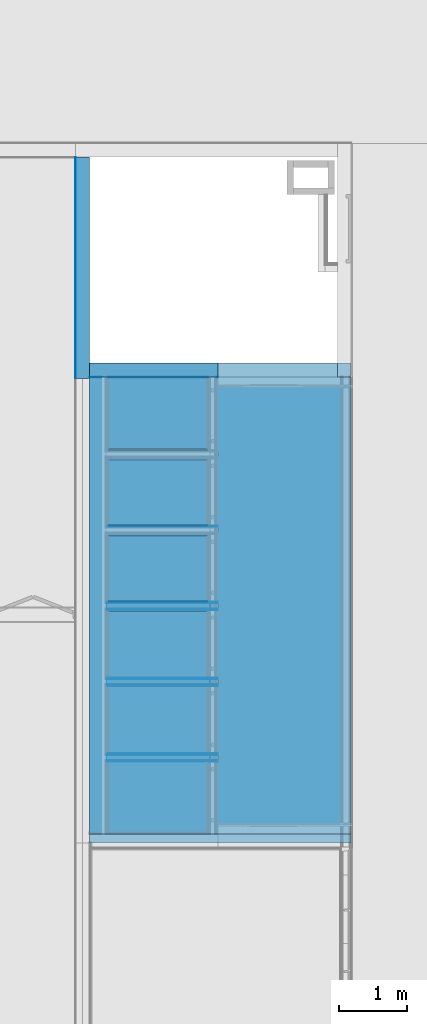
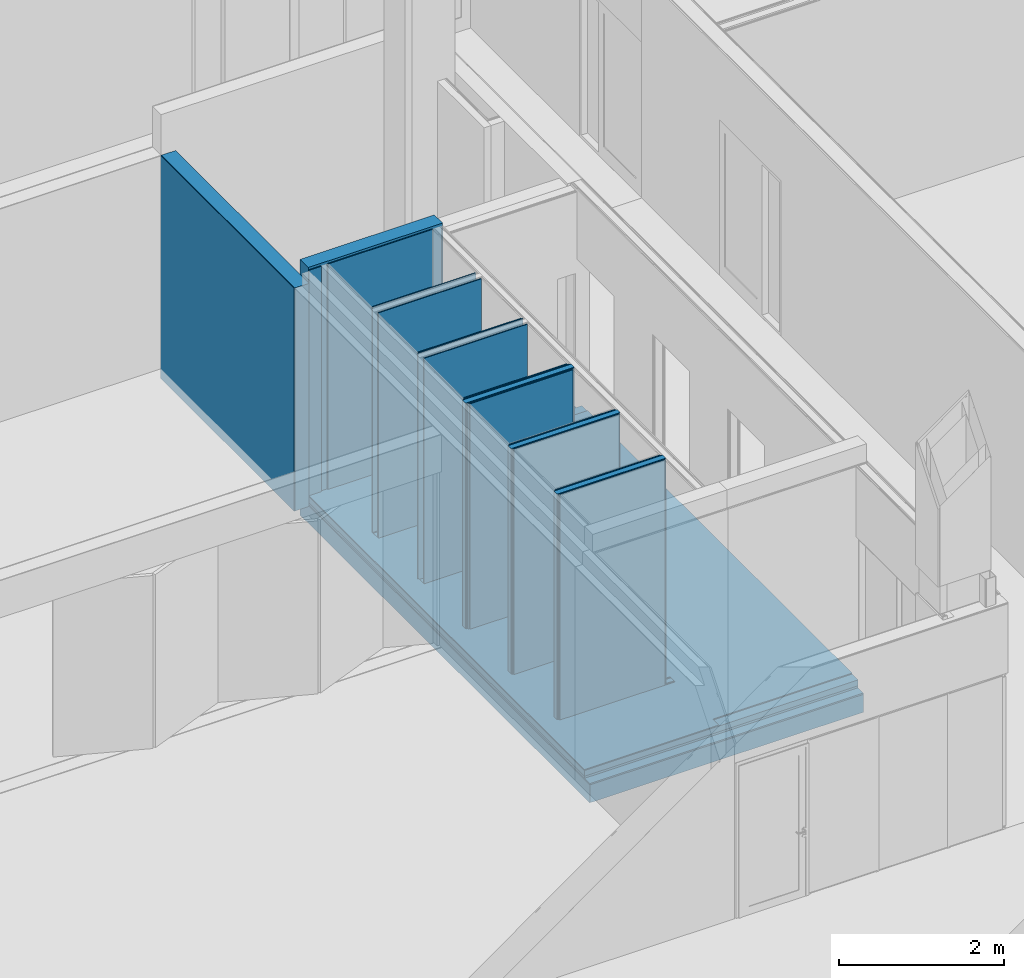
# One storey, part 114 of 139: 31 building element parts, 8 elements without a shape of their own.
"""IFC2X3 building model written with IfcOpenShell, lengths in millimetres."""

from ifc_helpers import new_model, entity, si_unit, converted_unit, derived_unit, money_unit, direction, frame, origin_with_axes, place, context, subcontext, project, spatial, faceted_brep, material, type_object, element, aggregate, save


model = new_model("IFC2X3")

# Units and contexts
model_context = context("Model", 3, precision=0.01, world=origin_with_axes(), true_north=direction((0.0, 1.0)))
body_context = subcontext(model_context, "Body", "Model", "MODEL_VIEW")
ifc_project = project(units=[si_unit("LENGTHUNIT", "METRE", prefix="MILLI"), si_unit("AREAUNIT", "SQUARE_METRE"), si_unit("VOLUMEUNIT", "CUBIC_METRE"), converted_unit("PLANEANGLEUNIT", "DEGREE", entity("IfcPlaneAngleMeasure", 0.0174532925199), si_unit("PLANEANGLEUNIT", "RADIAN"), dimensions=[0, 0, 0, 0, 0, 0, 0]), money_unit("EUR"), converted_unit("TIMEUNIT", "Year", entity("IfcTimeMeasure", 31556926.0), si_unit("TIMEUNIT", "SECOND"), dimensions=[0, 0, 1, 0, 0, 0, 0]), si_unit("MASSUNIT", "GRAM", prefix="KILO"), si_unit("THERMODYNAMICTEMPERATUREUNIT", "DEGREE_CELSIUS"), si_unit("LUMINOUSINTENSITYUNIT", "LUMEN"), si_unit("ENERGYUNIT", "JOULE", prefix="MEGA"), derived_unit("THERMALCONDUCTANCEUNIT", [(si_unit("POWERUNIT", "WATT"), 1), (si_unit("LENGTHUNIT", "METRE"), -1), (si_unit("THERMODYNAMICTEMPERATUREUNIT", "KELVIN"), -1)]), derived_unit("SPECIFICHEATCAPACITYUNIT", [(si_unit("ENERGYUNIT", "JOULE"), 1), (si_unit("MASSUNIT", "GRAM", prefix="KILO"), -1), (si_unit("THERMODYNAMICTEMPERATUREUNIT", "KELVIN"), -1)]), derived_unit("MASSDENSITYUNIT", [(si_unit("MASSUNIT", "GRAM", prefix="KILO"), 1), (si_unit("VOLUMEUNIT", "CUBIC_METRE"), -1)])], contexts=[model_context])

# Site, building, storey
site_placement = place(None, origin_with_axes())
site = spatial("IfcSite", under=ifc_project, at=site_placement, Name="Kolde pst 67a", CompositionType="ELEMENT")
building_placement = place(site_placement, origin_with_axes())
building = spatial("IfcBuilding", under=site, at=building_placement, Name="Riigigümnaasium", CompositionType="ELEMENT")
storey_placement = place(building_placement, frame((0.0, 0.0, 4600.0), z_axis=(0.0, 0.0, 1.0), x_axis=(1.0, 0.0, 0.0)))
storey = spatial("IfcBuildingStorey", under=building, at=storey_placement, Name="2. korrus", CompositionType="ELEMENT", Elevation=4600.0)

# Wall, building element parts
wall_type_1 = type_object("IfcWallType", Name="SS-KP-20/2_plokksein 1xplaaditud (1) 215", PredefinedType="NOTDEFINED")
wall_1_placement = place(storey_placement, frame((69949.9993636, 21023.7852933, -150.0), z_axis=(0.0, 0.0, 1.0), x_axis=(1.0, 7.74960239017e-09, 0.0)))
wall_1 = element("IfcWall", 1, at=wall_1_placement, inside=storey, type_object=wall_type_1, Name="Sisesein")
ifc_material_1 = material(Name="_KANDETARIND - kergplokk Fibo3 200mm")
building_element_part_1_placement = place(wall_1_placement, origin_with_axes())
building_element_part_1 = element("IfcBuildingElementPart", 2, at=building_element_part_1_placement, material=ifc_material_1, Name="_KANDETARIND - kergplokk Fibo3 200mm", context=body_context, shape_type="Brep", body=[
    faceted_brep([(1879.99999723, -1.55323220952e-05, 20.0), (1879.99999878, 200.000013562, 20.0), (1879.99999878, 199.999985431, 3450.0), (1879.99997386, 199.999985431, 3518.3651723), (1879.99999711, -1.45692524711e-05, 3518.3651723), (-7.37204430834e-05, 200.000028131, 20.0), (-7.52703641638e-05, 0.0, 20.0), (1.54992108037e-06, 200.0, 3518.36517124), (0.0, 0.0, 3518.36517124)], [[[0, 1, 2, 3, 4]], [[5, 1, 0, 6]], [[1, 5, 7, 3, 2]], [[7, 8, 4, 3]], [[6, 0, 4, 8]], [[5, 6, 8, 7]]]),
])
ifc_material_2 = material(Name="_VIIMISTLUSKIHT - viimistlus vastavalt SA osale")
building_element_part_2_placement = place(wall_1_placement, origin_with_axes())
building_element_part_2 = element("IfcBuildingElementPart", 3, at=building_element_part_2_placement, material=ifc_material_2, Name="_VIIMISTLUSKIHT - viimistlus vastavalt SA osale", context=body_context, shape_type="Brep", body=[
    faceted_brep([(-7.45586703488e-07, 0.0, 3485.0), (173.999434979, -1.35802480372e-06, 3485.0), (173.999434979, -2.31700525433e-06, 150.0), (-7.52703641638e-05, 0.0, 150.0), (173.999434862, -15.0000013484, 3485.0), (-8.61831495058e-07, -15.0, 3485.0), (173.999434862, -15.0000013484, 150.0), (-7.53866089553e-05, -15.0, 150.0)], [[[0, 1, 2, 3]], [[4, 1, 0, 5]], [[1, 4, 6, 2]], [[3, 2, 6, 7]], [[5, 0, 3, 7]], [[4, 5, 7, 6]]]),
    faceted_brep([(264.999433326, -2.06323846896e-06, 3485.0), (1739.99999828, -1.34866517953e-05, 3485.0), (1739.99999711, -1.37208360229e-05, 150.0), (264.999434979, -3.02221891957e-06, 150.0), (1740.00000002, -15.0000134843, 3485.0), (264.999433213, -15.0000020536, 3485.0), (1739.99999885, -15.0000134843, 150.0), (264.999434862, -15.0000020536, 150.0)], [[[0, 1, 2, 3]], [[4, 1, 0, 5]], [[1, 4, 6, 2]], [[3, 2, 6, 7]], [[5, 0, 3, 7]], [[4, 5, 7, 6]]]),
    faceted_brep([(1879.99999724, -15.0000145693, 150.0), (1879.99999727, -1.54965356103e-05, 150.0), (1879.99999825, -1.45880711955e-05, 3450.0), (1879.99999999, -15.0000145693, 3450.0), (1864.99999711, -1.46895366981e-05, 150.0), (1864.99999885, -15.000014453, 150.0), (1864.99999709, -1.46895366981e-05, 3450.0), (1864.99999884, -15.000014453, 3450.0)], [[[0, 1, 2, 3]], [[4, 1, 0, 5]], [[1, 4, 6, 2]], [[2, 6, 7, 3]], [[5, 0, 3, 7]], [[4, 5, 7, 6]]]),
])
aggregate(wall_1, [building_element_part_1, building_element_part_2])

wall_type_2 = type_object("IfcWallType", Name="SS-MK-7,5/1_plaaditud 155", PredefinedType="NOTDEFINED")
wall_2_placement = place(storey_placement, frame((70229.9988411, 15524.9999708, -15.0), z_axis=(0.0, 0.0, 1.0), x_axis=(1.0, 0.0, 0.0)))
wall_2 = element("IfcWall", 4, at=wall_2_placement, inside=storey, type_object=wall_type_2, Name="Sisesein")
ifc_material_3 = material(Name="_PLAATMATERJAL - kipsplaat veekindel")
building_element_part_3_placement = place(wall_2_placement, origin_with_axes())
building_element_part_3 = element("IfcBuildingElementPart", 5, at=building_element_part_3_placement, material=ifc_material_3, Name="_PLAATMATERJAL - kipsplaat veekindel", context=body_context, shape_type="Brep", body=[
    faceted_brep([(-15.0000428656, -15.0, 3350.0), (1460.00120351, -15.0, 3350.0), (1460.00120329, -15.0, 15.0), (1600.00120329, -15.0, 15.0), (1600.00117477, -15.0, 0.0), (0.0, -15.0, 0.0), (0.0, -15.0, 15.0), (-15.0000425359, -15.0, 15.0), (1460.00120506, -27.5, 3350.0), (-15.0000428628, -27.5, 3350.0), (1460.00120484, -27.5, 15.0), (1600.00120484, -27.5, 15.0), (1600.00117477, -27.5, 0.0), (0.0, -27.5, 0.0), (0.0, -27.5, 15.0), (-15.0000425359, -27.5, 15.0)], [[[0, 1, 2, 3, 4, 5, 6, 7]], [[8, 1, 0, 9]], [[1, 8, 10, 2]], [[3, 2, 10, 11]], [[4, 3, 11, 12]], [[13, 5, 4, 12]], [[13, 14, 6, 5]], [[14, 15, 7, 6]], [[9, 0, 7, 15]], [[8, 9, 15, 14, 13, 12, 11, 10]]]),
])
building_element_part_4_placement = place(wall_2_placement, origin_with_axes())
building_element_part_4 = element("IfcBuildingElementPart", 6, at=building_element_part_4_placement, material=ifc_material_3, Name="_PLAATMATERJAL - kipsplaat veekindel", context=body_context, shape_type="Brep", body=[
    faceted_brep([(-27.5000425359, -27.5, 3350.0), (1472.50120484, -27.5, 3350.0), (1472.50120484, -27.5, 15.0), (1600.00120484, -27.5, 15.0), (1600.00117477, -27.5, 0.0), (0.0, -27.5, 0.0), (0.0, -27.5, 15.0), (-27.5000425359, -27.5, 15.0), (1472.50120639, -40.0, 3350.0), (-27.5000425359, -40.0, 3350.0), (1472.50120639, -40.0, 15.0), (1600.00120639, -40.0, 15.0), (1600.00117477, -40.0, 0.0), (0.0, -40.0, 0.0), (0.0, -40.0, 15.0), (-27.5000425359, -40.0, 15.0)], [[[0, 1, 2, 3, 4, 5, 6, 7]], [[8, 1, 0, 9]], [[1, 8, 10, 2]], [[3, 2, 10, 11]], [[4, 3, 11, 12]], [[13, 5, 4, 12]], [[13, 14, 6, 5]], [[14, 15, 7, 6]], [[9, 0, 7, 15]], [[8, 9, 15, 14, 13, 12, 11, 10]]]),
])
ifc_material_4 = material(Name="_KARKASS - metallkarkass CW 75/50, mineraalvill karkassi vahel")
building_element_part_5_placement = place(wall_2_placement, origin_with_axes())
building_element_part_5 = element("IfcBuildingElementPart", 7, at=building_element_part_5_placement, material=ifc_material_4, Name="_KARKASS - metallkarkass CW 75/50, mineraalvill karkassi vahel", context=body_context, shape_type="Brep", body=[
    faceted_brep([(-40.0000421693, -40.0, 3350.0), (1485.00120596, -40.0, 3350.0), (1485.00120639, -40.0, 15.0), (1600.00120639, -40.0, 15.0), (1600.00117477, -40.0, 0.0), (0.0, -40.0, 0.0), (0.0, -40.0, 15.0), (-40.0000425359, -40.0, 15.0), (1485.00121528, -115.0, 3350.0), (-40.0000421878, -115.0, 3350.0), (1485.00121569, -115.0, 15.0), (1600.00121569, -115.0, 15.0), (1600.00117477, -115.0, 0.0), (0.0, -115.0, 0.0), (0.0, -115.0, 15.0), (-40.0000425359, -115.0, 15.0)], [[[0, 1, 2, 3, 4, 5, 6, 7]], [[8, 1, 0, 9]], [[1, 8, 10, 2]], [[3, 2, 10, 11]], [[4, 3, 11, 12]], [[13, 5, 4, 12]], [[13, 14, 6, 5]], [[14, 15, 7, 6]], [[9, 0, 7, 15]], [[8, 9, 15, 14, 13, 12, 11, 10]]]),
])
building_element_part_6_placement = place(wall_2_placement, origin_with_axes())
building_element_part_6 = element("IfcBuildingElementPart", 8, at=building_element_part_6_placement, material=ifc_material_3, Name="_PLAATMATERJAL - kipsplaat veekindel", context=body_context, shape_type="Brep", body=[
    faceted_brep([(-27.5000425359, -115.0, 3350.0), (1472.50121569, -115.0, 3350.0), (1472.50121569, -115.0, 15.0), (1600.00121569, -115.0, 15.0), (1600.00117477, -115.0, 0.0), (0.0, -115.0, 0.0), (0.0, -115.0, 15.0), (-27.5000425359, -115.0, 15.0), (1472.50121724, -127.5, 3350.0), (-27.5000425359, -127.5, 3350.0), (1472.50121724, -127.5, 15.0), (1600.00121724, -127.5, 15.0), (1600.00117477, -127.5, 0.0), (0.0, -127.5, 0.0), (0.0, -127.5, 15.0), (-27.5000425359, -127.5, 15.0)], [[[0, 1, 2, 3, 4, 5, 6, 7]], [[8, 1, 0, 9]], [[1, 8, 10, 2]], [[3, 2, 10, 11]], [[4, 3, 11, 12]], [[13, 5, 4, 12]], [[13, 14, 6, 5]], [[14, 15, 7, 6]], [[9, 0, 7, 15]], [[8, 9, 15, 14, 13, 12, 11, 10]]]),
])
building_element_part_7_placement = place(wall_2_placement, origin_with_axes())
building_element_part_7 = element("IfcBuildingElementPart", 9, at=building_element_part_7_placement, material=ifc_material_3, Name="_PLAATMATERJAL - kipsplaat veekindel", context=body_context, shape_type="Brep", body=[
    faceted_brep([(-15.000042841, -127.5, 3350.0), (1460.00121745, -127.5, 3350.0), (1460.00121724, -127.5, 15.0), (1600.00121724, -127.5, 15.0), (1600.00117477, -127.5, 0.0), (0.0, -127.5, 0.0), (0.0, -127.5, 15.0), (-15.0000425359, -127.5, 15.0), (1460.00121899, -140.0, 3350.0), (-15.0000428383, -140.0, 3350.0), (1460.00121879, -140.0, 15.0), (1600.00121879, -140.0, 15.0), (1600.00117477, -140.0, 0.0), (0.0, -140.0, 0.0), (0.0, -140.0, 15.0), (-15.0000425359, -140.0, 15.0)], [[[0, 1, 2, 3, 4, 5, 6, 7]], [[8, 1, 0, 9]], [[1, 8, 10, 2]], [[3, 2, 10, 11]], [[4, 3, 11, 12]], [[13, 5, 4, 12]], [[13, 14, 6, 5]], [[14, 15, 7, 6]], [[9, 0, 7, 15]], [[8, 9, 15, 14, 13, 12, 11, 10]]]),
])
aggregate(wall_2, [building_element_part_3, building_element_part_4, building_element_part_5, building_element_part_6, building_element_part_7])

wall_type_3 = type_object("IfcWallType", Name="SS-RB-20/6_+1 krohv 210", PredefinedType="NOTDEFINED")
wall_3_placement = place(storey_placement, frame((69949.9992883, 20999.9999534, -150.0), z_axis=(0.0, 0.0, 1.0), x_axis=(0.0, 1.0, 0.0)))
wall_3 = element("IfcWall", 10, at=wall_3_placement, inside=storey, type_object=wall_type_3, Name="Sisesein")
building_element_part_8_placement = place(wall_3_placement, origin_with_axes())
building_element_part_8 = element("IfcBuildingElementPart", 11, at=building_element_part_8_placement, material=ifc_material_2, Name="_VIIMISTLUSKIHT - viimistlus vastavalt SA osale", context=body_context, shape_type="Brep", body=[
    faceted_brep([(0.0, 200.0, 3300.0), (3240.00001925, 200.0, 3300.0), (3240.00001925, 210.0, 3300.0), (0.0, 210.0, 3300.0), (0.0, 200.0, 0.0), (3240.00001925, 200.0, 0.0), (3240.00001925, 210.0, 0.0), (0.0, 210.0, 0.0)], [[[0, 1, 2, 3]], [[4, 5, 1, 0]], [[2, 1, 5, 6]], [[3, 2, 6, 7]], [[4, 0, 3, 7]], [[7, 6, 5, 4]]]),
])
ifc_material_5 = material(Name="_KANDETARIND - monteeritav raudbetoon vastavalt EK osale")
building_element_part_9_placement = place(wall_3_placement, origin_with_axes())
building_element_part_9 = element("IfcBuildingElementPart", 12, at=building_element_part_9_placement, material=ifc_material_5, Name="_KANDETARIND - monteeritav raudbetoon vastavalt EK osale", context=body_context, shape_type="Brep", body=[
    faceted_brep([(0.0, 0.0, 3300.0), (3240.00001925, 0.0, 3300.0), (3240.00001925, 200.0, 3300.0), (0.0, 200.0, 3300.0), (0.0, 0.0, 0.0), (3240.00001925, 0.0, 0.0), (3240.00001925, 200.0, 0.0), (0.0, 200.0, 0.0)], [[[0, 1, 2, 3]], [[4, 5, 1, 0]], [[2, 1, 5, 6]], [[3, 2, 6, 7]], [[4, 0, 3, 7]], [[7, 6, 5, 4]]]),
])
aggregate(wall_3, [building_element_part_8, building_element_part_9])

wall_4_placement = place(storey_placement, frame((70229.9987035, 16634.9999708, -15.0), z_axis=(0.0, 0.0, 1.0), x_axis=(1.0, 0.0, 0.0)))
wall_4 = element("IfcWall", 13, at=wall_4_placement, inside=storey, type_object=wall_type_2, Name="Sisesein")
building_element_part_10_placement = place(wall_4_placement, origin_with_axes())
building_element_part_10 = element("IfcBuildingElementPart", 14, at=building_element_part_10_placement, material=ifc_material_3, Name="_PLAATMATERJAL - kipsplaat veekindel", context=body_context, shape_type="Brep", body=[
    faceted_brep([(-14.9999054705, -15.0, 3350.0), (1460.00120369, -15.0, 3350.0), (1460.00120329, -15.0, 15.0), (1600.00120329, -15.0, 15.0), (1600.00117477, -15.0, 0.0), (0.0, -15.0, 0.0), (0.0, -15.0, 15.0), (-14.9999048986, -15.0, 15.0), (1460.00120524, -27.5, 3350.0), (-14.9999054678, -27.5, 3350.0), (1460.00120484, -27.5, 15.0), (1600.00120484, -27.5, 15.0), (1600.00117477, -27.5, 0.0), (0.0, -27.5, 0.0), (0.0, -27.5, 15.0), (-14.9999048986, -27.5, 15.0)], [[[0, 1, 2, 3, 4, 5, 6, 7]], [[8, 1, 0, 9]], [[1, 8, 10, 2]], [[3, 2, 10, 11]], [[4, 3, 11, 12]], [[13, 5, 4, 12]], [[13, 14, 6, 5]], [[14, 15, 7, 6]], [[9, 0, 7, 15]], [[8, 9, 15, 14, 13, 12, 11, 10]]]),
])
building_element_part_11_placement = place(wall_4_placement, origin_with_axes())
building_element_part_11 = element("IfcBuildingElementPart", 15, at=building_element_part_11_placement, material=ifc_material_3, Name="_PLAATMATERJAL - kipsplaat veekindel", context=body_context, shape_type="Brep", body=[
    faceted_brep([(-27.4999048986, -27.5, 3350.0), (1472.50120484, -27.5, 3350.0), (1472.50120484, -27.5, 15.0), (1600.00120484, -27.5, 15.0), (1600.00117477, -27.5, 0.0), (0.0, -27.5, 0.0), (0.0, -27.5, 15.0), (-27.4999048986, -27.5, 15.0), (1472.50120639, -40.0, 3350.0), (-27.4999048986, -40.0, 3350.0), (1472.50120639, -40.0, 15.0), (1600.00120639, -40.0, 15.0), (1600.00117477, -40.0, 0.0), (0.0, -40.0, 0.0), (0.0, -40.0, 15.0), (-27.4999048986, -40.0, 15.0)], [[[0, 1, 2, 3, 4, 5, 6, 7]], [[8, 1, 0, 9]], [[1, 8, 10, 2]], [[3, 2, 10, 11]], [[4, 3, 11, 12]], [[13, 5, 4, 12]], [[13, 14, 6, 5]], [[14, 15, 7, 6]], [[9, 0, 7, 15]], [[8, 9, 15, 14, 13, 12, 11, 10]]]),
])
building_element_part_12_placement = place(wall_4_placement, origin_with_axes())
building_element_part_12 = element("IfcBuildingElementPart", 16, at=building_element_part_12_placement, material=ifc_material_4, Name="_KARKASS - metallkarkass CW 75/50, mineraalvill karkassi vahel", context=body_context, shape_type="Brep", body=[
    faceted_brep([(-39.999904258, -40.0, 3350.0), (1485.00120561, -40.0, 3350.0), (1485.00120639, -40.0, 15.0), (1600.00120639, -40.0, 15.0), (1600.00117477, -40.0, 0.0), (0.0, -40.0, 0.0), (0.0, -40.0, 15.0), (-39.9999048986, -40.0, 15.0), (1485.00121493, -115.0, 3350.0), (-39.9999042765, -115.0, 3350.0), (1485.00121569, -115.0, 15.0), (1600.00121569, -115.0, 15.0), (1600.00117477, -115.0, 0.0), (0.0, -115.0, 0.0), (0.0, -115.0, 15.0), (-39.9999048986, -115.0, 15.0)], [[[0, 1, 2, 3, 4, 5, 6, 7]], [[8, 1, 0, 9]], [[1, 8, 10, 2]], [[3, 2, 10, 11]], [[4, 3, 11, 12]], [[13, 5, 4, 12]], [[13, 14, 6, 5]], [[14, 15, 7, 6]], [[9, 0, 7, 15]], [[8, 9, 15, 14, 13, 12, 11, 10]]]),
])
building_element_part_13_placement = place(wall_4_placement, origin_with_axes())
building_element_part_13 = element("IfcBuildingElementPart", 17, at=building_element_part_13_placement, material=ifc_material_3, Name="_PLAATMATERJAL - kipsplaat veekindel", context=body_context, shape_type="Brep", body=[
    faceted_brep([(-27.4999048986, -115.0, 3350.0), (1472.50121569, -115.0, 3350.0), (1472.50121569, -115.0, 15.0), (1600.00121569, -115.0, 15.0), (1600.00117477, -115.0, 0.0), (0.0, -115.0, 0.0), (0.0, -115.0, 15.0), (-27.4999048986, -115.0, 15.0), (1472.50121724, -127.5, 3350.0), (-27.4999048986, -127.5, 3350.0), (1472.50121724, -127.5, 15.0), (1600.00121724, -127.5, 15.0), (1600.00117477, -127.5, 0.0), (0.0, -127.5, 0.0), (0.0, -127.5, 15.0), (-27.4999048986, -127.5, 15.0)], [[[0, 1, 2, 3, 4, 5, 6, 7]], [[8, 1, 0, 9]], [[1, 8, 10, 2]], [[3, 2, 10, 11]], [[4, 3, 11, 12]], [[13, 5, 4, 12]], [[13, 14, 6, 5]], [[14, 15, 7, 6]], [[9, 0, 7, 15]], [[8, 9, 15, 14, 13, 12, 11, 10]]]),
])
building_element_part_14_placement = place(wall_4_placement, origin_with_axes())
building_element_part_14 = element("IfcBuildingElementPart", 18, at=building_element_part_14_placement, material=ifc_material_3, Name="_PLAATMATERJAL - kipsplaat veekindel", context=body_context, shape_type="Brep", body=[
    faceted_brep([(-14.999905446, -127.5, 3350.0), (1460.00121762, -127.5, 3350.0), (1460.00121724, -127.5, 15.0), (1600.00121724, -127.5, 15.0), (1600.00117477, -127.5, 0.0), (0.0, -127.5, 0.0), (0.0, -127.5, 15.0), (-14.9999048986, -127.5, 15.0), (1460.00121917, -140.0, 3350.0), (-14.9999054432, -140.0, 3350.0), (1460.00121879, -140.0, 15.0), (1600.00121879, -140.0, 15.0), (1600.00117477, -140.0, 0.0), (0.0, -140.0, 0.0), (0.0, -140.0, 15.0), (-14.9999048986, -140.0, 15.0)], [[[0, 1, 2, 3, 4, 5, 6, 7]], [[8, 1, 0, 9]], [[1, 8, 10, 2]], [[3, 2, 10, 11]], [[4, 3, 11, 12]], [[13, 5, 4, 12]], [[13, 14, 6, 5]], [[14, 15, 7, 6]], [[9, 0, 7, 15]], [[8, 9, 15, 14, 13, 12, 11, 10]]]),
])
aggregate(wall_4, [building_element_part_10, building_element_part_11, building_element_part_12, building_element_part_13, building_element_part_14])

wall_5_placement = place(storey_placement, frame((70229.9985658, 17744.9999708, -15.0), z_axis=(0.0, 0.0, 1.0), x_axis=(1.0, 0.0, 0.0)))
wall_5 = element("IfcWall", 19, at=wall_5_placement, inside=storey, type_object=wall_type_2, Name="Sisesein")
building_element_part_15_placement = place(wall_5_placement, origin_with_axes())
building_element_part_15 = element("IfcBuildingElementPart", 20, at=building_element_part_15_placement, material=ifc_material_2, Name="_VIIMISTLUSKIHT - viimistlus vastavalt SA osale", context=body_context, shape_type="Brep", body=[
    faceted_brep([(0.000232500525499, 0.0, 3350.0), (1445.00120143, 0.0, 3350.0), (1445.00120143, 0.0, 15.0), (0.000232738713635, 0.0, 15.0), (1445.00120329, -15.0, 3350.0), (0.000207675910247, -15.0, 3350.0), (1445.00120329, -15.0, 15.0), (9.29887278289e-07, -15.0, 15.0)], [[[0, 1, 2, 3]], [[4, 1, 0, 5]], [[1, 4, 6, 2]], [[3, 2, 6, 7]], [[5, 0, 3, 7]], [[4, 5, 7, 6]]]),
])
building_element_part_16_placement = place(wall_5_placement, origin_with_axes())
building_element_part_16 = element("IfcBuildingElementPart", 21, at=building_element_part_16_placement, material=ifc_material_3, Name="_PLAATMATERJAL - kipsplaat veekindel", context=body_context, shape_type="Brep", body=[
    faceted_brep([(-14.9997680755, -15.0, 3350.0), (1460.00120386, -15.0, 3350.0), (1460.00120329, -15.0, 15.0), (1600.00120329, -15.0, 15.0), (1600.00117477, -15.0, 0.0), (0.0, -15.0, 0.0), (0.0, -15.0, 15.0), (-14.9997672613, -15.0, 15.0), (1460.00120541, -27.5, 3350.0), (-14.9997680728, -27.5, 3350.0), (1460.00120484, -27.5, 15.0), (1600.00120484, -27.5, 15.0), (1600.00117477, -27.5, 0.0), (0.0, -27.5, 0.0), (0.0, -27.5, 15.0), (-14.9997672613, -27.5, 15.0)], [[[0, 1, 2, 3, 4, 5, 6, 7]], [[8, 1, 0, 9]], [[1, 8, 10, 2]], [[3, 2, 10, 11]], [[4, 3, 11, 12]], [[13, 5, 4, 12]], [[13, 14, 6, 5]], [[14, 15, 7, 6]], [[9, 0, 7, 15]], [[8, 9, 15, 14, 13, 12, 11, 10]]]),
])
building_element_part_17_placement = place(wall_5_placement, origin_with_axes())
building_element_part_17 = element("IfcBuildingElementPart", 22, at=building_element_part_17_placement, material=ifc_material_3, Name="_PLAATMATERJAL - kipsplaat veekindel", context=body_context, shape_type="Brep", body=[
    faceted_brep([(-27.4997672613, -27.5, 3350.0), (1472.50120484, -27.5, 3350.0), (1472.50120484, -27.5, 15.0), (1600.00120484, -27.5, 15.0), (1600.00117477, -27.5, 0.0), (0.0, -27.5, 0.0), (0.0, -27.5, 15.0), (-27.4997672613, -27.5, 15.0), (1472.50120639, -40.0, 3350.0), (-27.4997672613, -40.0, 3350.0), (1472.50120639, -40.0, 15.0), (1600.00120639, -40.0, 15.0), (1600.00117477, -40.0, 0.0), (0.0, -40.0, 0.0), (0.0, -40.0, 15.0), (-27.4997672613, -40.0, 15.0)], [[[0, 1, 2, 3, 4, 5, 6, 7]], [[8, 1, 0, 9]], [[1, 8, 10, 2]], [[3, 2, 10, 11]], [[4, 3, 11, 12]], [[13, 5, 4, 12]], [[13, 14, 6, 5]], [[14, 15, 7, 6]], [[9, 0, 7, 15]], [[8, 9, 15, 14, 13, 12, 11, 10]]]),
])
building_element_part_18_placement = place(wall_5_placement, origin_with_axes())
building_element_part_18 = element("IfcBuildingElementPart", 23, at=building_element_part_18_placement, material=ifc_material_4, Name="_KARKASS - metallkarkass CW 75/50, mineraalvill karkassi vahel", context=body_context, shape_type="Brep", body=[
    faceted_brep([(-39.9997663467, -40.0, 3350.0), (1485.00120526, -40.0, 3350.0), (1485.00120639, -40.0, 15.0), (1600.00120639, -40.0, 15.0), (1600.00117477, -40.0, 0.0), (0.0, -40.0, 0.0), (0.0, -40.0, 15.0), (-39.9997672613, -40.0, 15.0), (1485.00121458, -115.0, 3350.0), (-39.9997663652, -115.0, 3350.0), (1485.00121569, -115.0, 15.0), (1600.00121569, -115.0, 15.0), (1600.00117477, -115.0, 0.0), (0.0, -115.0, 0.0), (0.0, -115.0, 15.0), (-39.9997672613, -115.0, 15.0)], [[[0, 1, 2, 3, 4, 5, 6, 7]], [[8, 1, 0, 9]], [[1, 8, 10, 2]], [[3, 2, 10, 11]], [[4, 3, 11, 12]], [[13, 5, 4, 12]], [[13, 14, 6, 5]], [[14, 15, 7, 6]], [[9, 0, 7, 15]], [[8, 9, 15, 14, 13, 12, 11, 10]]]),
])
building_element_part_19_placement = place(wall_5_placement, origin_with_axes())
building_element_part_19 = element("IfcBuildingElementPart", 24, at=building_element_part_19_placement, material=ifc_material_3, Name="_PLAATMATERJAL - kipsplaat veekindel", context=body_context, shape_type="Brep", body=[
    faceted_brep([(-27.4997672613, -115.0, 3350.0), (1472.50121569, -115.0, 3350.0), (1472.50121569, -115.0, 15.0), (1600.00121569, -115.0, 15.0), (1600.00117477, -115.0, 0.0), (0.0, -115.0, 0.0), (0.0, -115.0, 15.0), (-27.4997672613, -115.0, 15.0), (1472.50121724, -127.5, 3350.0), (-27.4997672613, -127.5, 3350.0), (1472.50121724, -127.5, 15.0), (1600.00121724, -127.5, 15.0), (1600.00117477, -127.5, 0.0), (0.0, -127.5, 0.0), (0.0, -127.5, 15.0), (-27.4997672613, -127.5, 15.0)], [[[0, 1, 2, 3, 4, 5, 6, 7]], [[8, 1, 0, 9]], [[1, 8, 10, 2]], [[3, 2, 10, 11]], [[4, 3, 11, 12]], [[13, 5, 4, 12]], [[13, 14, 6, 5]], [[14, 15, 7, 6]], [[9, 0, 7, 15]], [[8, 9, 15, 14, 13, 12, 11, 10]]]),
])
building_element_part_20_placement = place(wall_5_placement, origin_with_axes())
building_element_part_20 = element("IfcBuildingElementPart", 25, at=building_element_part_20_placement, material=ifc_material_3, Name="_PLAATMATERJAL - kipsplaat veekindel", context=body_context, shape_type="Brep", body=[
    faceted_brep([(-14.999768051, -127.5, 3350.0), (1460.00121779, -127.5, 3350.0), (1460.00121724, -127.5, 15.0), (1600.00121724, -127.5, 15.0), (1600.00117477, -127.5, 0.0), (0.0, -127.5, 0.0), (0.0, -127.5, 15.0), (-14.9997672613, -127.5, 15.0), (1460.00121934, -140.0, 3350.0), (-14.9997680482, -140.0, 3350.0), (1460.00121879, -140.0, 15.0), (1600.00121879, -140.0, 15.0), (1600.00117477, -140.0, 0.0), (0.0, -140.0, 0.0), (0.0, -140.0, 15.0), (-14.9997672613, -140.0, 15.0)], [[[0, 1, 2, 3, 4, 5, 6, 7]], [[8, 1, 0, 9]], [[1, 8, 10, 2]], [[3, 2, 10, 11]], [[4, 3, 11, 12]], [[13, 5, 4, 12]], [[13, 14, 6, 5]], [[14, 15, 7, 6]], [[9, 0, 7, 15]], [[8, 9, 15, 14, 13, 12, 11, 10]]]),
])
building_element_part_21_placement = place(wall_5_placement, origin_with_axes())
building_element_part_21 = element("IfcBuildingElementPart", 26, at=building_element_part_21_placement, material=ifc_material_2, Name="_VIIMISTLUSKIHT - viimistlus vastavalt SA osale", context=body_context, shape_type="Brep", body=[
    faceted_brep([(0.000207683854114, -140.0, 3350.0), (1445.00121879, -140.0, 3350.0), (1445.00121879, -140.0, 15.0), (9.29929910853e-07, -140.0, 15.0), (1445.00122065, -155.0, 3350.0), (0.000232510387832, -155.0, 3350.0), (1445.00122065, -155.0, 15.0), (0.000232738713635, -155.0, 15.0)], [[[0, 1, 2, 3]], [[4, 1, 0, 5]], [[1, 4, 6, 2]], [[3, 2, 6, 7]], [[5, 0, 3, 7]], [[4, 5, 7, 6]]]),
])
aggregate(wall_5, [building_element_part_15, building_element_part_16, building_element_part_17, building_element_part_18, building_element_part_19, building_element_part_20, building_element_part_21])

wall_6_placement = place(storey_placement, frame((70229.9984282, 18854.9999708, -15.0), z_axis=(0.0, 0.0, 1.0), x_axis=(1.0, 0.0, 0.0)))
wall_6 = element("IfcWall", 27, at=wall_6_placement, inside=storey, type_object=wall_type_2, Name="Sisesein")
building_element_part_22_placement = place(wall_6_placement, origin_with_axes())
building_element_part_22 = element("IfcBuildingElementPart", 28, at=building_element_part_22_placement, material=ifc_material_2, Name="_VIIMISTLUSKIHT - viimistlus vastavalt SA osale", context=body_context, shape_type="Brep", body=[
    faceted_brep([(0.000370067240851, 0.0, 3350.0), (1445.00120143, 0.0, 3350.0), (1445.00120143, 0.0, 15.0), (0.000370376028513, 0.0, 15.0), (1445.00120329, -15.0, 3350.0), (0.000330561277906, -15.0, 3350.0), (1445.00120329, -15.0, 15.0), (1.48013157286e-06, -15.0, 15.0)], [[[0, 1, 2, 3]], [[4, 1, 0, 5]], [[1, 4, 6, 2]], [[3, 2, 6, 7]], [[5, 0, 3, 7]], [[4, 5, 7, 6]]]),
])
building_element_part_23_placement = place(wall_6_placement, origin_with_axes())
building_element_part_23 = element("IfcBuildingElementPart", 29, at=building_element_part_23_placement, material=ifc_material_3, Name="_PLAATMATERJAL - kipsplaat veekindel", context=body_context, shape_type="Brep", body=[
    faceted_brep([(-14.9996306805, -15.0, 3350.0), (1460.00120404, -15.0, 3350.0), (1460.00120329, -15.0, 15.0), (1600.00120329, -15.0, 15.0), (1600.00117477, -15.0, 0.0), (0.0, -15.0, 0.0), (0.0, -15.0, 15.0), (-14.999629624, -15.0, 15.0), (1460.00120558, -27.5, 3350.0), (-14.9996306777, -27.5, 3350.0), (1460.00120484, -27.5, 15.0), (1600.00120484, -27.5, 15.0), (1600.00117477, -27.5, 0.0), (0.0, -27.5, 0.0), (0.0, -27.5, 15.0), (-14.999629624, -27.5, 15.0)], [[[0, 1, 2, 3, 4, 5, 6, 7]], [[8, 1, 0, 9]], [[1, 8, 10, 2]], [[3, 2, 10, 11]], [[4, 3, 11, 12]], [[13, 5, 4, 12]], [[13, 14, 6, 5]], [[14, 15, 7, 6]], [[9, 0, 7, 15]], [[8, 9, 15, 14, 13, 12, 11, 10]]]),
])
building_element_part_24_placement = place(wall_6_placement, origin_with_axes())
building_element_part_24 = element("IfcBuildingElementPart", 30, at=building_element_part_24_placement, material=ifc_material_2, Name="_VIIMISTLUSKIHT - viimistlus vastavalt SA osale", context=body_context, shape_type="Brep", body=[
    faceted_brep([(0.000330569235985, -140.0, 3350.0), (1445.00121879, -140.0, 3350.0), (1445.00121879, -140.0, 15.0), (1.48015999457e-06, -140.0, 15.0), (1445.00122065, -155.0, 3350.0), (0.000370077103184, -155.0, 3350.0), (1445.00122065, -155.0, 15.0), (0.000370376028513, -155.0, 15.0)], [[[0, 1, 2, 3]], [[4, 1, 0, 5]], [[1, 4, 6, 2]], [[3, 2, 6, 7]], [[5, 0, 3, 7]], [[4, 5, 7, 6]]]),
])
aggregate(wall_6, [building_element_part_22, building_element_part_23, building_element_part_24])

wall_7_placement = place(storey_placement, frame((70229.9982905, 19964.9999708, -15.0), z_axis=(0.0, 0.0, 1.0), x_axis=(1.0, 0.0, 0.0)))
wall_7 = element("IfcWall", 31, at=wall_7_placement, inside=storey, type_object=wall_type_2, Name="Sisesein")
building_element_part_25_placement = place(wall_7_placement, origin_with_axes())
building_element_part_25 = element("IfcBuildingElementPart", 32, at=building_element_part_25_placement, material=ifc_material_2, Name="_VIIMISTLUSKIHT - viimistlus vastavalt SA osale", context=body_context, shape_type="Brep", body=[
    faceted_brep([(0.000507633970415, 0.0, 3350.0), (1445.00120143, 0.0, 3350.0), (1445.00120143, 0.0, 15.0), (0.000508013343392, 0.0, 15.0), (1445.00120329, -15.0, 3350.0), (0.000453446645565, -15.0, 3350.0), (1445.00120329, -15.0, 15.0), (2.03036165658e-06, -15.0, 15.0)], [[[0, 1, 2, 3]], [[4, 1, 0, 5]], [[1, 4, 6, 2]], [[3, 2, 6, 7]], [[5, 0, 3, 7]], [[4, 5, 7, 6]]]),
])
building_element_part_26_placement = place(wall_7_placement, origin_with_axes())
building_element_part_26 = element("IfcBuildingElementPart", 33, at=building_element_part_26_placement, material=ifc_material_2, Name="_VIIMISTLUSKIHT - viimistlus vastavalt SA osale", context=body_context, shape_type="Brep", body=[
    faceted_brep([(0.000453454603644, -140.0, 3350.0), (1445.00121879, -140.0, 3350.0), (1445.00121879, -140.0, 15.0), (2.03039007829e-06, -140.0, 15.0), (1445.00122065, -155.0, 3350.0), (0.000507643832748, -155.0, 3350.0), (1445.00122065, -155.0, 15.0), (0.000508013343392, -155.0, 15.0)], [[[0, 1, 2, 3]], [[4, 1, 0, 5]], [[1, 4, 6, 2]], [[3, 2, 6, 7]], [[5, 0, 3, 7]], [[4, 5, 7, 6]]]),
])
aggregate(wall_7, [building_element_part_25, building_element_part_26])

# Slab, building element parts
slab_type = type_object("IfcSlabType", Name="VL-RB-26/2_parkett/plaat 415", PredefinedType="NOTDEFINED")
slab_placement = place(storey_placement, frame((69949.9992883, 14199.9999727, 0.0), z_axis=(0.0, 0.0, 1.0), x_axis=(1.0, 0.0, 0.0)))
slab = element("IfcSlab", 34, at=slab_placement, inside=storey, type_object=slab_type, Name="VAHELAGI", PredefinedType="NOTDEFINED")
building_element_part_27_placement = place(slab_placement, origin_with_axes())
building_element_part_27 = element("IfcBuildingElementPart", 35, at=building_element_part_27_placement, material=ifc_material_2, Name="_VIIMISTLUSKIHT - viimistlus vastavalt SA osale", context=body_context, shape_type="Brep", body=[
    faceted_brep([(1880.00007238, 6678.78533518, 0.0), (1880.00007238, 6823.78533518, 0.0), (7.52703641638e-05, 6823.78532062, 0.0), (0.0, 129.365349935, 0.0), (1880.00089185, 129.365339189, 0.0), (1880.00089185, 274.365339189, 0.0), (2240.00024174, 274.365339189, 0.0), (3140.00024174, 274.365339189, 0.0), (3830.00024174, 274.365339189, 0.0), (3830.00024269, 6678.78533518, 0.0), (3140.00024287, 6678.78533518, 0.0), (2240.00024287, 6678.78533518, 0.0), (279.999552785, 1309.99999815, 0.0), (1880.00072766, 1309.99999815, 0.0), (1880.00072773, 1184.99999815, 0.0), (279.999552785, 1184.99999815, 0.0), (279.999415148, 2419.99999815, 0.0), (1880.00059003, 2419.99999815, 0.0), (1880.00059009, 2294.99999815, 0.0), (279.999415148, 2294.99999815, 0.0), (279.99927751, 3529.99999815, 0.0), (1880.00045239, 3529.99999815, 0.0), (1880.00045245, 3404.99999815, 0.0), (279.99927751, 3404.99999815, 0.0), (279.999139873, 4639.99999815, 0.0), (1880.00031475, 4639.99999815, 0.0), (1880.00031481, 4514.99999815, 0.0), (279.999139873, 4514.99999815, 0.0), (279.999002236, 5749.99999815, 0.0), (1880.00017712, 5749.99999815, 0.0), (1880.00017718, 5624.99999815, 0.0), (279.999002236, 5624.99999815, 0.0), (1880.00007238, 6678.78533518, -15.0), (1880.00007238, 6823.78533518, -15.0), (7.52703641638e-05, 6823.78532062, -15.0), (0.0, 129.365349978, -15.0), (1880.00089185, 129.365339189, -15.0), (1880.00089185, 274.365339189, -15.0), (3830.00024174, 274.365339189, -15.0), (3830.00024269, 6678.78533518, -15.0), (279.999552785, 1309.99999815, -15.0), (1880.00072755, 1309.99999815, -15.0), (1880.00072755, 1184.99999815, -15.0), (279.999552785, 1184.99999815, -15.0), (279.999415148, 2419.99999815, -15.0), (1880.00058991, 2419.99999815, -15.0), (1880.00058991, 2294.99999815, -15.0), (279.999415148, 2294.99999815, -15.0), (279.99927751, 3529.99999815, -15.0), (1880.00045228, 3529.99999815, -15.0), (1880.00045228, 3404.99999815, -15.0), (279.99927751, 3404.99999815, -15.0), (279.999139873, 4639.99999815, -15.0), (1880.00031464, 4639.99999815, -15.0), (1880.00031464, 4514.99999815, -15.0), (279.999139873, 4514.99999815, -15.0), (279.999002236, 5749.99999815, -15.0), (1880.000177, 5749.99999815, -15.0), (1880.000177, 5624.99999815, -15.0), (279.999002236, 5624.99999815, -15.0)], [[[0, 1, 2, 3, 4, 5, 6, 7, 8, 9, 10, 11], [12, 13, 14, 15], [16, 17, 18, 19], [20, 21, 22, 23], [24, 25, 26, 27], [28, 29, 30, 31]], [[0, 32, 33, 1]], [[1, 33, 34, 2]], [[35, 3, 2, 34]], [[36, 4, 3, 35]], [[4, 36, 37, 5]], [[38, 8, 7, 6, 5, 37]], [[39, 9, 8, 38]], [[10, 9, 39, 32, 0, 11]], [[13, 12, 40, 41]], [[13, 41, 42, 14]], [[15, 14, 42, 43]], [[40, 12, 15, 43]], [[17, 16, 44, 45]], [[17, 45, 46, 18]], [[19, 18, 46, 47]], [[44, 16, 19, 47]], [[21, 20, 48, 49]], [[21, 49, 50, 22]], [[23, 22, 50, 51]], [[48, 20, 23, 51]], [[25, 24, 52, 53]], [[25, 53, 54, 26]], [[27, 26, 54, 55]], [[52, 24, 27, 55]], [[29, 28, 56, 57]], [[29, 57, 58, 30]], [[31, 30, 58, 59]], [[56, 28, 31, 59]], [[32, 39, 38, 37, 36, 35, 34, 33], [40, 43, 42, 41], [44, 47, 46, 45], [48, 51, 50, 49], [52, 55, 54, 53], [56, 59, 58, 57]]]),
])
ifc_material_6 = material(Name="_PEALEVALUKIHT - raudbetoonplaat vastavalt EK osale, vajadusel põrandküte")
building_element_part_28_placement = place(slab_placement, origin_with_axes())
building_element_part_28 = element("IfcBuildingElementPart", 36, at=building_element_part_28_placement, material=ifc_material_6, Name="_PEALEVALUKIHT - raudbetoonplaat vastavalt EK osale, vajadusel põrandküte", context=body_context, shape_type="Brep", body=[
    faceted_brep([(1880.00007238, 7023.78533518, -80.0), (3630.00024174, 7023.78533518, -80.0), (3630.00024174, 7023.78534586, -100.0), (1880.0000725, 7023.78532062, -100.0), (3630.00024174, 6823.78533518, -80.0), (1880.00007238, 6823.78533518, -80.0), (3630.00024174, 6823.78534123, -100.0), (3830.00024271, 6823.7853503, -100.0), (3830.00024174, 129.365339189, -100.0), (0.0, 129.365350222, -100.0), (7.52703641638e-05, 6823.78532062, -100.0), (1880.0000725, 6823.78531966, -100.0), (7.52703641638e-05, 6823.78532062, -15.0), (3830.00024271, 6823.7853503, -15.0), (3830.00024174, 129.365339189, -15.0), (0.0, 129.365349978, -15.0)], [[[0, 1, 2, 3]], [[4, 1, 0, 5]], [[1, 4, 6, 2]], [[6, 7, 8, 9, 10, 11, 3, 2]], [[5, 0, 3, 11]], [[12, 13, 7, 6, 4, 5, 11, 10]], [[7, 13, 14, 8]], [[14, 15, 9, 8]], [[9, 15, 12, 10]], [[12, 15, 14, 13]]]),
])
ifc_material_7 = material(Name="_ISOLATSIOON - löögimüraisolatsioon, mineraalvill, koormustaluvus min 20 kPa, dünaamiline jäikus 16 MN/m³, ISOVER FLO või samaväärne")
building_element_part_29_placement = place(slab_placement, origin_with_axes())
building_element_part_29 = element("IfcBuildingElementPart", 37, at=building_element_part_29_placement, material=ifc_material_7, Name="_ISOLATSIOON - löögimüraisolatsioon, mineraalvill, koormustaluvus min 20 kPa, dünaamiline jäikus 16 MN/m³, ISOVER FLO või samaväärne", context=body_context, shape_type="Brep", body=[
    faceted_brep([(3830.00024271, 6823.7853503, -130.0), (3830.00024271, 6823.7853503, -100.0), (3830.00024174, 129.365339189, -100.0), (3830.00024174, 129.365339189, -130.0), (3630.00024174, 6823.78534123, -100.0), (3630.00024174, 6823.7853503, -130.0), (3630.00024174, 7023.78534586, -100.0), (1880.0000725, 7023.78532062, -100.0), (1880.0000725, 6823.78531966, -100.0), (7.52703641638e-05, 6823.78532062, -100.0), (0.0, 129.365350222, -100.0), (0.0, 129.365350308, -130.0), (7.52703641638e-05, 6823.78532062, -130.0), (1880.0000725, 6823.78531965, -130.0), (1880.0000725, 7023.78532062, -130.0), (3630.00024174, 7023.78534586, -130.0)], [[[0, 1, 2, 3]], [[4, 1, 0, 5]], [[4, 6, 7, 8, 9, 10, 2, 1]], [[2, 10, 11, 3]], [[5, 0, 3, 11, 12, 13, 14, 15]], [[15, 6, 4, 5]], [[6, 15, 14, 7]], [[8, 7, 14, 13]], [[9, 8, 13, 12]], [[11, 10, 9, 12]]]),
])
ifc_material_8 = material(Name="_SOOJUSTUS - vahtpolüstüreenplaadid EPS 80, survetugevus min 80kPa, soojuserijuhtivus λD<0,038 W/(mK)")
building_element_part_30_placement = place(slab_placement, origin_with_axes())
building_element_part_30 = element("IfcBuildingElementPart", 38, at=building_element_part_30_placement, material=ifc_material_8, Name="_SOOJUSTUS - vahtpolüstüreenplaadid EPS 80, survetugevus min 80kPa, soojuserijuhtivus λD<0,038 W/(mK)", context=body_context, shape_type="Brep", body=[
    faceted_brep([(3830.00024174, 0.0, -150.0), (3830.00024174, 0.0, -130.0), (0.0, 0.0, -130.0), (0.0, 0.0, -150.0), (3830.00024174, 7023.78534875, -150.0), (3830.00024174, 7023.78534875, -130.0), (0.0, 7023.78534875, -130.0), (0.0, 7023.78534875, -150.0)], [[[0, 1, 2, 3]], [[4, 5, 1, 0]], [[2, 1, 5, 6]], [[3, 2, 6, 7]], [[3, 7, 4, 0]], [[7, 6, 5, 4]]]),
])
building_element_part_31_placement = place(slab_placement, origin_with_axes())
building_element_part_31 = element("IfcBuildingElementPart", 39, at=building_element_part_31_placement, material=ifc_material_5, Name="_KANDETARIND - monteeritav raudbetoon vastavalt EK osale", context=body_context, shape_type="Brep", body=[
    faceted_brep([(0.0, 0.0, -415.0), (3830.00024174, 0.0, -415.0), (3830.00024174, 0.0, -150.0), (0.0, 0.0, -150.0), (0.0, 7023.78534875, -415.0), (3830.00024174, 7023.78534875, -415.0), (3830.00024174, 7023.78534875, -150.0), (0.0, 7023.78534875, -150.0)], [[[0, 1, 2, 3]], [[0, 4, 5, 1]], [[1, 5, 6, 2]], [[3, 2, 6, 7]], [[4, 0, 3, 7]], [[5, 4, 7, 6]]]),
])
aggregate(slab, [building_element_part_27, building_element_part_28, building_element_part_29, building_element_part_30, building_element_part_31])

save(model, "model.ifc")
